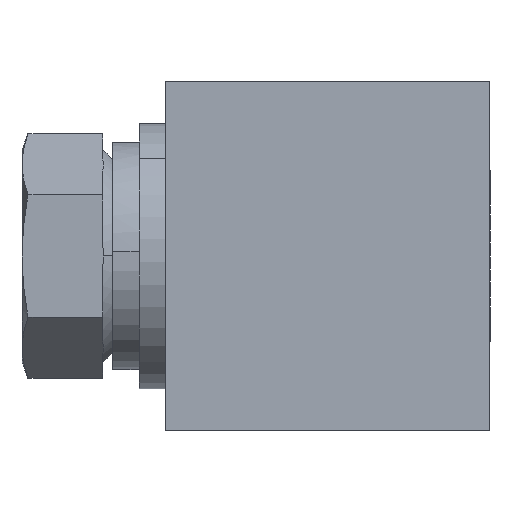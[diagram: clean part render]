
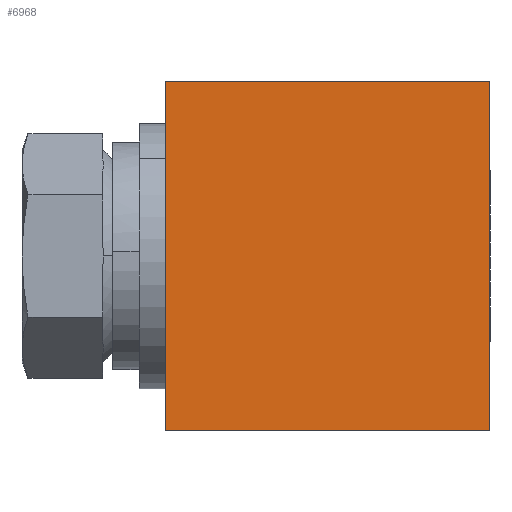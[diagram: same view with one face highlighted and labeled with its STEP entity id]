
A CAD part, left-side view. The second image highlights one B-rep face of the part: STEP entity #6968.
In plain terms, the highlighted planar face has unit normal (-1, 0, 0).
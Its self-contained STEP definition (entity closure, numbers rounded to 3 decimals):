
#263 = ORIENTED_EDGE ( 'NONE', *, *, #3061, .T. ) ;
#629 = DIRECTION ( 'NONE',  ( 0., -1., 0. ) ) ;
#1050 = VERTEX_POINT ( 'NONE', #3484 ) ;
#1219 = CARTESIAN_POINT ( 'NONE',  ( 0., 21., -19.5 ) ) ;
#1562 = DIRECTION ( 'NONE',  ( 0., 0., -1. ) ) ;
#1790 = VECTOR ( 'NONE', #10024, 1000. ) ;
#1970 = VERTEX_POINT ( 'NONE', #5788 ) ;
#1974 = DIRECTION ( 'NONE',  ( 0., 0., 1. ) ) ;
#2027 = LINE ( 'NONE', #1219, #7158 ) ;
#2060 = ORIENTED_EDGE ( 'NONE', *, *, #2435, .F. ) ;
#2435 = EDGE_CURVE ( 'NONE', #3412, #3318, #2027, .T. ) ;
#2468 = VECTOR ( 'NONE', #8384, 1000. ) ;
#3061 = EDGE_CURVE ( 'NONE', #1050, #1970, #9183, .T. ) ;
#3318 = VERTEX_POINT ( 'NONE', #4147 ) ;
#3412 = VERTEX_POINT ( 'NONE', #9267 ) ;
#3484 = CARTESIAN_POINT ( 'NONE',  ( 0., 0., -19.5 ) ) ;
#3486 = AXIS2_PLACEMENT_3D ( 'NONE', #4461, #6438, #1562 ) ;
#3581 = EDGE_CURVE ( 'NONE', #3318, #1970, #4705, .T. ) ;
#3626 = PLANE ( 'NONE',  #3486 ) ;
#3717 = CARTESIAN_POINT ( 'NONE',  ( 0., 21., -19.5 ) ) ;
#4147 = CARTESIAN_POINT ( 'NONE',  ( 0., 21., 0. ) ) ;
#4461 = CARTESIAN_POINT ( 'NONE',  ( 0., 21., -19.5 ) ) ;
#4705 = LINE ( 'NONE', #7971, #7609 ) ;
#5788 = CARTESIAN_POINT ( 'NONE',  ( 0., 0., 0. ) ) ;
#5970 = CARTESIAN_POINT ( 'NONE',  ( 0., 0., -19.5 ) ) ;
#6438 = DIRECTION ( 'NONE',  ( 1., 0., 0. ) ) ;
#6711 = ORIENTED_EDGE ( 'NONE', *, *, #7384, .T. ) ;
#6825 = EDGE_LOOP ( 'NONE', ( #263, #9040, #2060, #6711 ) ) ;
#6968 = ADVANCED_FACE ( 'NONE', ( #7681 ), #3626, .F. ) ;
#7158 = VECTOR ( 'NONE', #1974, 1000. ) ;
#7384 = EDGE_CURVE ( 'NONE', #3412, #1050, #7716, .T. ) ;
#7609 = VECTOR ( 'NONE', #629, 1000. ) ;
#7681 = FACE_OUTER_BOUND ( 'NONE', #6825, .T. ) ;
#7716 = LINE ( 'NONE', #3717, #1790 ) ;
#7971 = CARTESIAN_POINT ( 'NONE',  ( 0., 21., 0. ) ) ;
#8384 = DIRECTION ( 'NONE',  ( 0., 0., 1. ) ) ;
#9040 = ORIENTED_EDGE ( 'NONE', *, *, #3581, .F. ) ;
#9183 = LINE ( 'NONE', #5970, #2468 ) ;
#9267 = CARTESIAN_POINT ( 'NONE',  ( 0., 21., -19.5 ) ) ;
#10024 = DIRECTION ( 'NONE',  ( 0., -1., 0. ) ) ;
